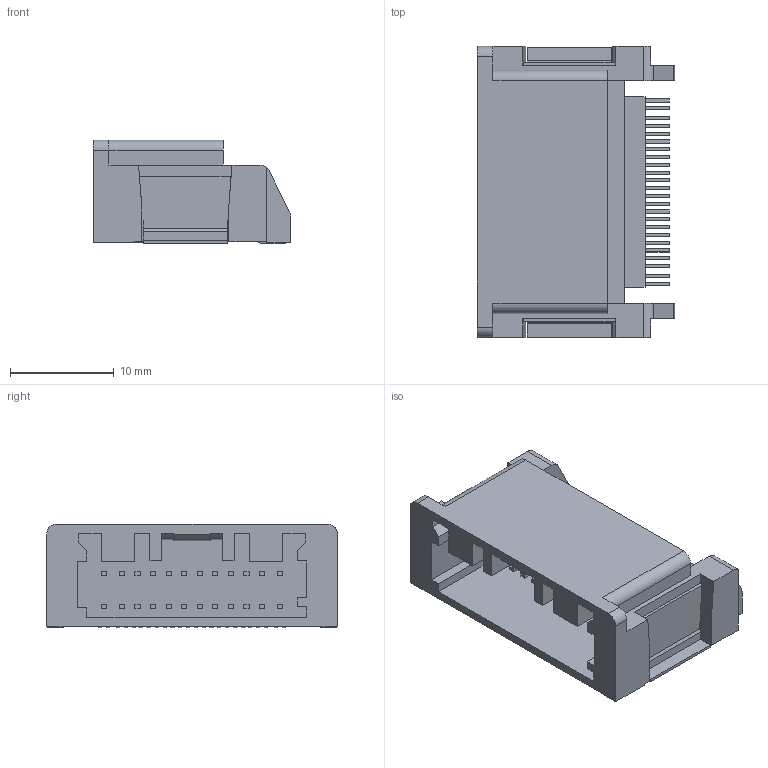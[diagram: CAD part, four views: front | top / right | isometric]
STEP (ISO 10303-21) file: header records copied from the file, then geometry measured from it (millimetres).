
FILE_DESCRIPTION(('CATIA V5 STEP','CAx-IF Rec.Pracs.--- Model Styling and Organization---1.5--- 2016-08-15','CAx-IF Rec.Pracs.---Supplemental Geometry---1.0---2011-11-01','CAx-IF Rec.Pracs.--- Composite Materials ---1.1---2010-07-15'),'2;1');
FILE_NAME('C:\Users\0120190062\Desktop\6098-9727(24_SMT).stp','2023-06-13T02:09:06+00:00',('none'),('none'),'CATIA Version 5-6 Release 2022 SP2 HF23','CATIA V5 STEP AP214 v2','none');
FILE_SCHEMA(('AUTOMOTIVE_DESIGN { 1 0 10303 214 1 1 1 1 }'));
Length unit declared in the file: millimetre
Products named in the file (1): M-ASSY24
Bounding box: 19 x 28.05 x 10 mm (x, y, z)
Volume: 2073.4 mm3; surface area: 3199.5 mm2
Topology: 1 solids, 1 shells, 433 faces, 1148 edges, 766 vertices
Faces by surface type: plane 415, cylinder 18
Entity records: 11960 total; most frequent: ORIENTED_EDGE 2296, CARTESIAN_POINT 2186, DIRECTION 1495, EDGE_CURVE 1148, VECTOR 1106, LINE 1106, VERTEX_POINT 766, EDGE_LOOP 482
